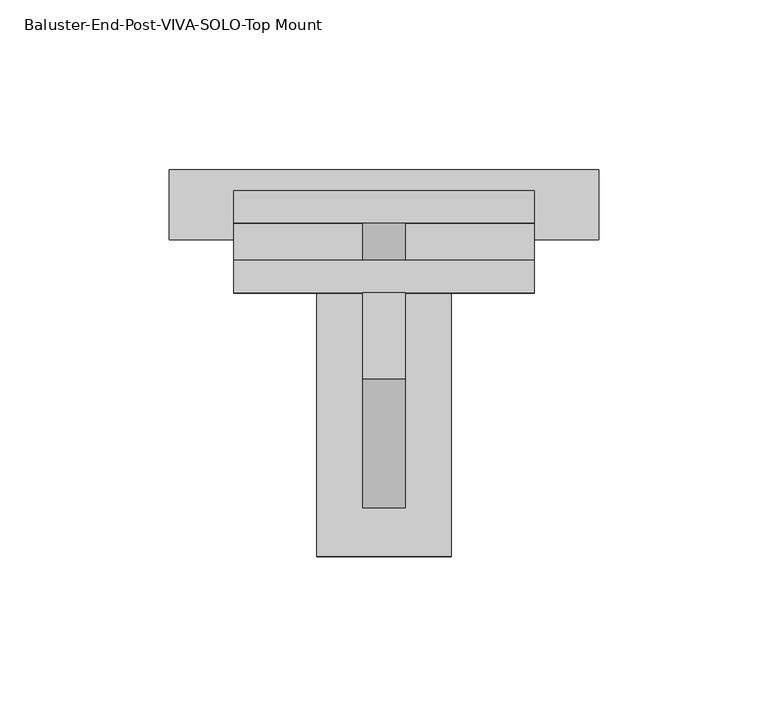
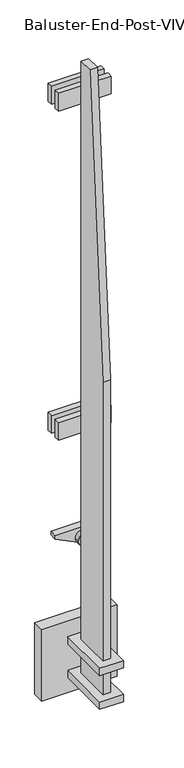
"""IFC4 building model written with IfcOpenShell, lengths in millimetres: proxy geometry, Baluster-End-Post-VIVA-SOLO-Top Mount : ANCHORED TO CONCRETE_FASCIA B1 MOUNT FOLD_STRAIGHT."""

from ifc_helpers import new_model, si_unit, point, frame, frame_2d, origin, place, context, project, spatial, polyline, circle_curve, trimmed, segment, composite_curve, outline, extrude, source, transform, mapped, element, save


def baluster_end_post_viva_solo_top_mount_260e03f1(model_context):
    return source(origin(), model_context, "Body", "SweptSolid", [
        extrude(outline(composite_curve([segment(trimmed(circle_curve(frame_2d((268.5208758, 152.4)), 6.35), [point((268.5208758, 146.05))], [point((268.5208758, 158.75))], False, "CARTESIAN"), True, "CONTINUOUS"), segment(trimmed(circle_curve(frame_2d((268.5208758, 152.4)), 6.35), [point((268.5208758, 158.75))], [point((268.5208758, 146.05))], False, "CARTESIAN"), True, "CONTINUOUS")], self_intersect=False)), frame((0.0, -63.209781, 0.0), z_axis=(0.0, 1.0, 0.0), x_axis=(0.0, 0.0, 1.0)), (0.0, 0.0, 1.0), 12.7),
        extrude(outline(composite_curve([segment(trimmed(circle_curve(frame_2d((854.7429765, 152.4)), 6.35), [point((854.7429765, 146.05))], [point((854.7429765, 158.75))], False, "CARTESIAN"), True, "CONTINUOUS"), segment(trimmed(circle_curve(frame_2d((854.7429765, 152.4)), 6.35), [point((854.7429765, 158.75))], [point((854.7429765, 146.05))], False, "CARTESIAN"), True, "CONTINUOUS")], self_intersect=False)), frame((0.0, -63.209781, 0.0), z_axis=(0.0, 1.0, 0.0), x_axis=(0.0, 0.0, 1.0)), (0.0, 0.0, 1.0), 12.7),
        extrude(outline(polyline([(-72.734781, 914.9493536), (-72.734781, -183.6006464), (-136.234781, -183.6006464), (-136.234781, 381.5493536), (-98.134781, 914.9493536), (-72.734781, 914.9493536)])), frame((146.05, 0.0, 0.0), z_axis=(1.0, 0.0, 0.0), x_axis=(0.0, 1.0, 0.0)), (0.0, 0.0, 1.0), 12.7),
        extrude(outline(polyline([(196.85, -42.5925389), (196.85, -52.1175389), (107.95, -52.1175389), (107.95, -42.5925389), (196.85, -42.5925389)])), frame((0.0, 0.0, 838.7824344), z_axis=(0.0, 0.0, 1.0), x_axis=(1.0, 0.0, 0.0)), (0.0, 0.0, 1.0), 31.75),
        extrude(outline(polyline([(196.85, -42.5925389), (196.85, -52.1175389), (107.95, -52.1175389), (107.95, -42.5925389), (196.85, -42.5925389)])), frame((0.0, 0.0, 252.4484609), z_axis=(0.0, 0.0, 1.0), x_axis=(1.0, 0.0, 0.0)), (0.0, 0.0, 1.0), 31.75),
        extrude(outline(polyline([(196.85, -63.209781), (196.85, -72.734781), (107.95, -72.734781), (107.95, -63.209781), (196.85, -63.209781)])), frame((0.0, 0.0, 838.7824344), z_axis=(0.0, 0.0, 1.0), x_axis=(1.0, 0.0, 0.0)), (0.0, 0.0, 1.0), 31.75),
        extrude(outline(polyline([(196.85, -63.209781), (196.85, -72.734781), (107.95, -72.734781), (107.95, -63.209781), (196.85, -63.209781)])), frame((0.0, 0.0, 252.4484609), z_axis=(0.0, 0.0, 1.0), x_axis=(1.0, 0.0, 0.0)), (0.0, 0.0, 1.0), 31.75),
        extrude(outline(polyline([(70.3302675, 107.95), (48.4156188, 152.4), (70.3302675, 196.85), (76.6802675, 196.85), (76.6802675, 107.95), (70.3302675, 107.95)])), frame((0.0, -63.209781, 0.0), z_axis=(0.0, 1.0, 0.0), x_axis=(0.0, 0.0, 1.0)), (0.0, 0.0, 1.0), 12.7),
        extrude(outline(polyline([(132.55625, -56.859781), (172.24375, -56.859781), (172.24375, -150.522281), (132.55625, -150.522281), (132.55625, -56.859781)])), frame((0.0, 0.0, -128.0381464), z_axis=(0.0, 0.0, 1.0), x_axis=(1.0, 0.0, 0.0)), (0.0, 0.0, 1.0), 12.7),
        extrude(outline(polyline([(132.55625, -56.859781), (172.24375, -56.859781), (172.24375, -150.522281), (132.55625, -150.522281), (132.55625, -56.859781)])), frame((0.0, 0.0, -188.3631464), z_axis=(0.0, 0.0, 1.0), x_axis=(1.0, 0.0, 0.0)), (0.0, 0.0, 1.0), 12.7),
        extrude(outline(polyline([(215.9, -36.222281), (215.9, -56.859781), (88.9, -56.859781), (88.9, -36.222281), (215.9, -36.222281)])), frame((0.0, 0.0, -215.3506464), z_axis=(0.0, 0.0, 1.0), x_axis=(1.0, 0.0, 0.0)), (0.0, 0.0, 1.0), 127.0),
        extrude(outline(composite_curve([segment(trimmed(circle_curve(frame_2d((60.8777263, 152.4)), 11.1125), [point((60.8777263, 141.2875))], [point((60.8777263, 163.5125))], False, "CARTESIAN"), True, "CONTINUOUS"), segment(trimmed(circle_curve(frame_2d((60.8777263, 152.4)), 11.1125), [point((60.8777263, 163.5125))], [point((60.8777263, 141.2875))], False, "CARTESIAN"), True, "CONTINUOUS")], self_intersect=False)), frame((0.0, -72.734781, 0.0), z_axis=(0.0, 1.0, 0.0), x_axis=(0.0, 0.0, 1.0)), (0.0, 0.0, 1.0), 25.4),
    ])


if __name__ == "__main__":
    model = new_model("IFC4")
    model_context = context("Model", 3, world=origin())
    ifc_project = project(units=[si_unit("LENGTHUNIT", "METRE", prefix="MILLI")], contexts=[model_context])
    site = spatial("IfcSite", under=ifc_project)
    building = spatial("IfcBuilding", under=site)
    placement = place(None, origin())
    baluster_end_post_viva_solo_top_mount_shape = baluster_end_post_viva_solo_top_mount_260e03f1(model_context)
    element("IfcBuildingElementProxy", 1, Name="Baluster-End-Post-VIVA-SOLO-Top Mount : ANCHORED TO CONCRETE_FASCIA B1 MOUNT FOLD_STRAIGHT", ObjectType="Baluster-End-Post-VIVA-SOLO-Top Mount : ANCHORED TO CONCRETE_FASCIA B1 MOUNT FOLD_STRAIGHT", at=placement, inside=building, context=model_context, shape_type="MappedRepresentation", body=[
        mapped(baluster_end_post_viva_solo_top_mount_shape, transform((0.0, 0.0, 0.0), x_axis=(1.0, 0.0, 0.0), y_axis=(0.0, 1.0, 0.0), z_axis=(0.0, 0.0, 1.0))),
    ])
    save(model, "model.ifc")
